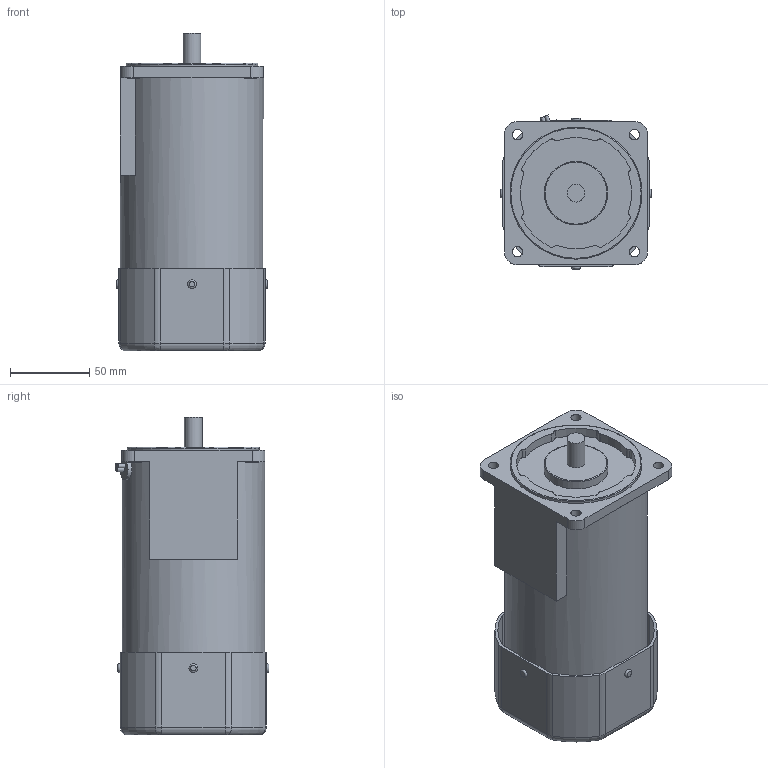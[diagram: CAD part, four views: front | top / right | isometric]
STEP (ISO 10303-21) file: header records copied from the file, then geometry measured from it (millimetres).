
FILE_DESCRIPTION((''),'2;1');
FILE_NAME('E:\2공장-도면\3D\표준형 3D(민규)\step file\K9RP120Fㅁ-B .stp','2014-11-11T10:41:14',('AHN'),(''),'Autodesk Inventor 2012','Autodesk Inventor 2012','');
FILE_SCHEMA(('CONFIG_CONTROL_DESIGN'));
Length unit declared in the file: millimetre
Products named in the file (1): K9RP120Fㅁ-B 
Bounding box: 95 x 96.71 x 200 mm (x, y, z)
Volume: 1087500.6 mm3; surface area: 106076.7 mm2
Topology: 1 solids, 1 shells, 233 faces, 586 edges, 360 vertices
Faces by surface type: cylinder 119, plane 68, torus 38, bspline 8
Full cylindrical faces by diameter (mm): 6.5 x4, 8 x4, 11.3 x1, 40 x1, 83 x1, 90 x1
Entity records: 7578 total; most frequent: CARTESIAN_POINT 1968, DIRECTION 1207, ORIENTED_EDGE 1120, EDGE_CURVE 560, AXIS2_PLACEMENT_3D 478, VERTEX_POINT 352, EDGE_LOOP 297, CIRCLE 252
